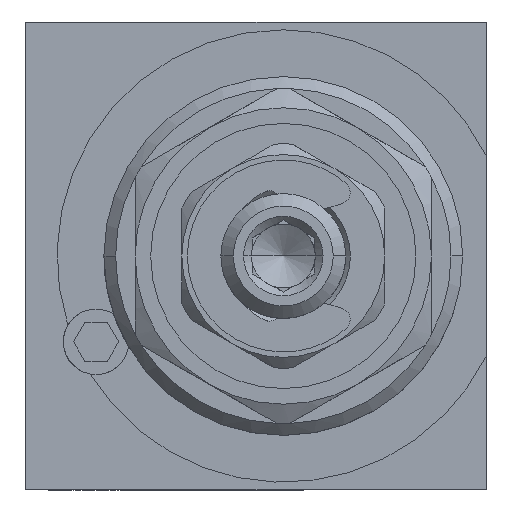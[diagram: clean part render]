
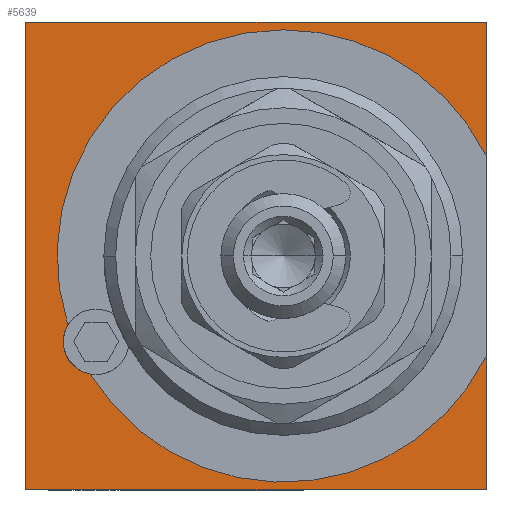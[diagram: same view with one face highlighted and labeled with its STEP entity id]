
A CAD part, left-side view. The second image highlights one B-rep face of the part: STEP entity #5639.
In plain terms, the highlighted planar face has unit normal (-1, 0, 0).
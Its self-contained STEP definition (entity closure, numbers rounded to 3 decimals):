
#276 = EDGE_CURVE ( 'NONE', #4752, #2400, #13543, .T. ) ;
#1208 = VERTEX_POINT ( 'NONE', #21753 ) ;
#2070 = VERTEX_POINT ( 'NONE', #9170 ) ;
#2147 = DIRECTION ( 'NONE',  ( 1., 0., 0. ) ) ;
#2195 = DIRECTION ( 'NONE',  ( 0., 1., 0. ) ) ;
#2400 = VERTEX_POINT ( 'NONE', #19616 ) ;
#2621 = ORIENTED_EDGE ( 'NONE', *, *, #11691, .T. ) ;
#2916 = ORIENTED_EDGE ( 'NONE', *, *, #11635, .F. ) ;
#3468 = ORIENTED_EDGE ( 'NONE', *, *, #10500, .F. ) ;
#3694 = ORIENTED_EDGE ( 'NONE', *, *, #276, .F. ) ;
#3857 = VERTEX_POINT ( 'NONE', #19358 ) ;
#3894 = DIRECTION ( 'NONE',  ( 0., 0., -1. ) ) ;
#3968 = DIRECTION ( 'NONE',  ( 0., -1., 0. ) ) ;
#4166 = ORIENTED_EDGE ( 'NONE', *, *, #9326, .F. ) ;
#4392 = ORIENTED_EDGE ( 'NONE', *, *, #11563, .F. ) ;
#4413 = ORIENTED_EDGE ( 'NONE', *, *, #9285, .T. ) ;
#4614 = ORIENTED_EDGE ( 'NONE', *, *, #11566, .T. ) ;
#4752 = VERTEX_POINT ( 'NONE', #5048 ) ;
#4847 = CARTESIAN_POINT ( 'NONE',  ( 0., 10.25, -5.5 ) ) ;
#4976 = ORIENTED_EDGE ( 'NONE', *, *, #20082, .F. ) ;
#5048 = CARTESIAN_POINT ( 'NONE',  ( 0., 14.75, -15. ) ) ;
#5095 = VERTEX_POINT ( 'NONE', #18487 ) ;
#5446 = AXIS2_PLACEMENT_3D ( 'NONE', #4847, #16588, #6590 ) ;
#5639 = ADVANCED_FACE ( 'NONE', ( #11482 ), #10291, .T. ) ;
#6590 = DIRECTION ( 'NONE',  ( 0., 0., 1. ) ) ;
#7065 = CARTESIAN_POINT ( 'NONE',  ( 0., 14.75, -15. ) ) ;
#8085 = VERTEX_POINT ( 'NONE', #19888 ) ;
#8461 = CARTESIAN_POINT ( 'NONE',  ( 0., 10.619, -7.567 ) ) ;
#8694 = DIRECTION ( 'NONE',  ( 0., 0., 1. ) ) ;
#8957 = DIRECTION ( 'NONE',  ( 1., 0., 0. ) ) ;
#8974 = DIRECTION ( 'NONE',  ( 0., 0., 1. ) ) ;
#9125 = CARTESIAN_POINT ( 'NONE',  ( 0., 14.75, 15. ) ) ;
#9163 = DIRECTION ( 'NONE',  ( 0., 0., -1. ) ) ;
#9170 = CARTESIAN_POINT ( 'NONE',  ( 0., -14.75, -6.423 ) ) ;
#9266 = CIRCLE ( 'NONE', #11739, 14.5 ) ;
#9285 = EDGE_CURVE ( 'NONE', #11061, #8085, #16570, .T. ) ;
#9326 = EDGE_CURVE ( 'NONE', #2400, #1208, #16476, .T. ) ;
#9437 = CARTESIAN_POINT ( 'NONE',  ( 0., -1.75, 0. ) ) ;
#9700 = VECTOR ( 'NONE', #9163, 1000. ) ;
#9823 = LINE ( 'NONE', #10831, #9700 ) ;
#9868 = VECTOR ( 'NONE', #3894, 1000. ) ;
#9891 = CIRCLE ( 'NONE', #11877, 14.5 ) ;
#9907 = LINE ( 'NONE', #14005, #9868 ) ;
#10291 = PLANE ( 'NONE',  #16740 ) ;
#10500 = EDGE_CURVE ( 'NONE', #5095, #4752, #13820, .T. ) ;
#10831 = CARTESIAN_POINT ( 'NONE',  ( 0., -14.75, 15. ) ) ;
#11061 = VERTEX_POINT ( 'NONE', #16237 ) ;
#11105 = DIRECTION ( 'NONE',  ( 0., 0., 1. ) ) ;
#11482 = FACE_OUTER_BOUND ( 'NONE', #12178, .T. ) ;
#11563 = EDGE_CURVE ( 'NONE', #1208, #8085, #9907, .T. ) ;
#11566 = EDGE_CURVE ( 'NONE', #3857, #11061, #9891, .T. ) ;
#11635 = EDGE_CURVE ( 'NONE', #2070, #5095, #9823, .T. ) ;
#11691 = EDGE_CURVE ( 'NONE', #2070, #16462, #9266, .T. ) ;
#11739 = AXIS2_PLACEMENT_3D ( 'NONE', #9437, #21140, #11105 ) ;
#11877 = AXIS2_PLACEMENT_3D ( 'NONE', #12393, #2147, #14074 ) ;
#12178 = EDGE_LOOP ( 'NONE', ( #4976, #4614, #4413, #4392, #4166, #3694, #3468, #2916, #2621 ) ) ;
#12393 = CARTESIAN_POINT ( 'NONE',  ( 0., -1.75, 0. ) ) ;
#13481 = AXIS2_PLACEMENT_3D ( 'NONE', #19034, #8957, #20641 ) ;
#13543 = LINE ( 'NONE', #9125, #21632 ) ;
#13777 = VECTOR ( 'NONE', #2195, 1000. ) ;
#13820 = LINE ( 'NONE', #14048, #13777 ) ;
#14005 = CARTESIAN_POINT ( 'NONE',  ( 0., -14.75, 15. ) ) ;
#14048 = CARTESIAN_POINT ( 'NONE',  ( 0., -14.75, -15. ) ) ;
#14074 = DIRECTION ( 'NONE',  ( 0., 0., 1. ) ) ;
#16237 = CARTESIAN_POINT ( 'NONE',  ( 0., -1.75, 14.5 ) ) ;
#16454 = VECTOR ( 'NONE', #3968, 1000. ) ;
#16462 = VERTEX_POINT ( 'NONE', #8461 ) ;
#16476 = LINE ( 'NONE', #20706, #16454 ) ;
#16570 = CIRCLE ( 'NONE', #13481, 14.5 ) ;
#16588 = DIRECTION ( 'NONE',  ( -1., 0., 0. ) ) ;
#16740 = AXIS2_PLACEMENT_3D ( 'NONE', #7065, #18796, #8694 ) ;
#18157 = CIRCLE ( 'NONE', #5446, 2.1 ) ;
#18487 = CARTESIAN_POINT ( 'NONE',  ( 0., -14.75, -15. ) ) ;
#18796 = DIRECTION ( 'NONE',  ( -1., 0., 0. ) ) ;
#19034 = CARTESIAN_POINT ( 'NONE',  ( 0., -1.75, 0. ) ) ;
#19358 = CARTESIAN_POINT ( 'NONE',  ( 0., 12.057, -4.43 ) ) ;
#19616 = CARTESIAN_POINT ( 'NONE',  ( 0., 14.75, 15. ) ) ;
#19888 = CARTESIAN_POINT ( 'NONE',  ( 0., -14.75, 6.423 ) ) ;
#20082 = EDGE_CURVE ( 'NONE', #3857, #16462, #18157, .T. ) ;
#20641 = DIRECTION ( 'NONE',  ( 0., 0., 1. ) ) ;
#20706 = CARTESIAN_POINT ( 'NONE',  ( 0., -14.75, 15. ) ) ;
#21140 = DIRECTION ( 'NONE',  ( 1., 0., 0. ) ) ;
#21632 = VECTOR ( 'NONE', #8974, 1000. ) ;
#21753 = CARTESIAN_POINT ( 'NONE',  ( 0., -14.75, 15. ) ) ;
